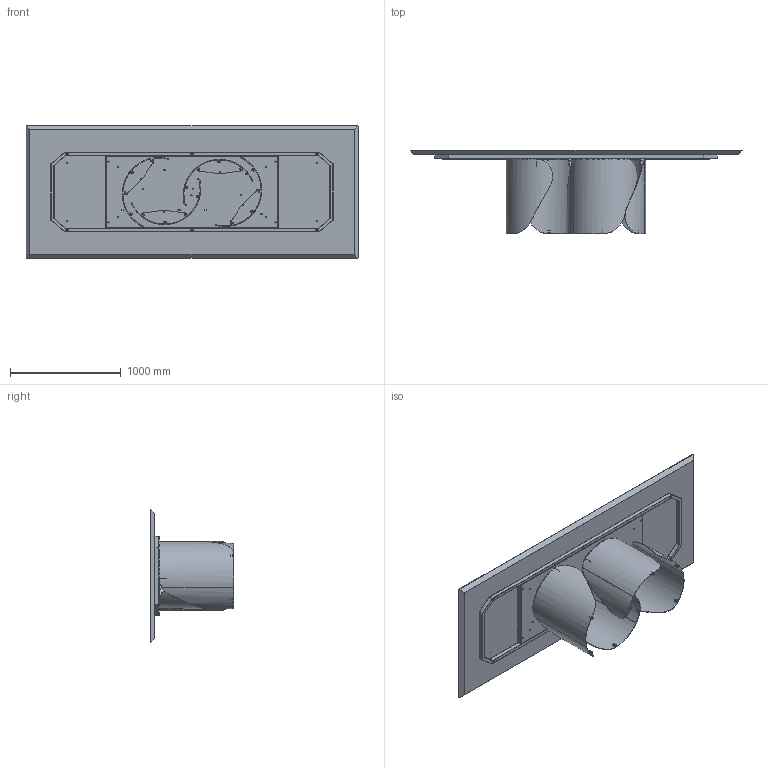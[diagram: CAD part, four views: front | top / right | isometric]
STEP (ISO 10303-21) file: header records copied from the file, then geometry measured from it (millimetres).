
FILE_DESCRIPTION (( 'STEP AP203' ), '1' );
FILE_NAME ('ON24W.STEP', '2024-08-06T13:43:23', ( '' ), ( '' ), 'SwSTEP 2.0', 'SolidWorks 2022', '' );
FILE_SCHEMA (( 'CONFIG_CONTROL_DESIGN' ));
Length unit declared in the file: millimetre
Products named in the file (15): PIEDINO PER ONDA; TTAV07_02-01-VASSOIO TELAIO  PLAI ONDA NOA 300; COLLO TELAIO UNIVERSALE TTAV07 CON FERRAMENTA_MTG TOP LEGNO-MARMO-KING; M8xXXmm_M8x20mm; rondella M8_8X24; ON24W; COLLO BASE ONDA SINGOLA CON FERRAMENTA; OND000000_01-00-PIASTRA SUPERIORE BASE ONDA; TTAV07-04-TELAIO X TAVOLI PLAI ONDA NOA 300; OND000000-03-ONDA BASE GREZZA; W2XCMXX-00-Piani Rettangolari in legno_3000 x 1200; M8xXXmm_M8x55mm; OND000000_02-00-CILINDRO DI FISSAGGIO Ø25X17 M8; OND000000_03-00-LAMIERA CURVATA PRINCIPALE_OND00000X-00-ONDA BASE GREZZA PROTOTIPO; TTAV07_01-04-STRUTTURA TAVOLI PLAI ONDA NOA 300
Assembly tree (60 placements, depth 4):
  ON24W
    COLLO TELAIO UNIVERSALE TTAV07 CON FERRAMENTA_MTG TOP LEGNO-MARMO-KING
      TTAV07-04-TELAIO X TAVOLI PLAI ONDA NOA 300
        TTAV07_01-04-STRUTTURA TAVOLI PLAI ONDA NOA 300
        TTAV07_02-01-VASSOIO TELAIO  PLAI ONDA NOA 300
      rondella M8_8X24  x6
      M8xXXmm_M8x55mm  x6
    COLLO BASE ONDA SINGOLA CON FERRAMENTA  x4
      OND000000-03-ONDA BASE GREZZA
        OND000000_03-00-LAMIERA CURVATA PRINCIPALE_OND00000X-00-ONDA BASE GREZZA PROTOTIPO
        OND000000_01-00-PIASTRA SUPERIORE BASE ONDA
        OND000000_02-00-CILINDRO DI FISSAGGIO Ø25X17 M8  x2
      PIEDINO PER ONDA
    rondella M8_8X24  x16
    M8xXXmm_M8x20mm  x16
    W2XCMXX-00-Piani Rettangolari in legno_3000 x 1200
Bounding box: 3000 x 754 x 1200 mm (x, y, z)
Volume: 149275028.1 mm3; surface area: 15952636.5 mm2
Topology: 79 solids, 79 shells, 2190 faces, 5034 edges, 3019 vertices
Faces by surface type: plane 788, cylinder 730, torus 296, cone 280, bspline 80, sphere 16
Entity records: 24922 total; most frequent: CARTESIAN_POINT 5500, DIRECTION 3597, ORIENTED_EDGE 3334, EDGE_CURVE 1667, AXIS2_PLACEMENT_3D 1354, VERTEX_POINT 1049, VECTOR 889, LINE 889
